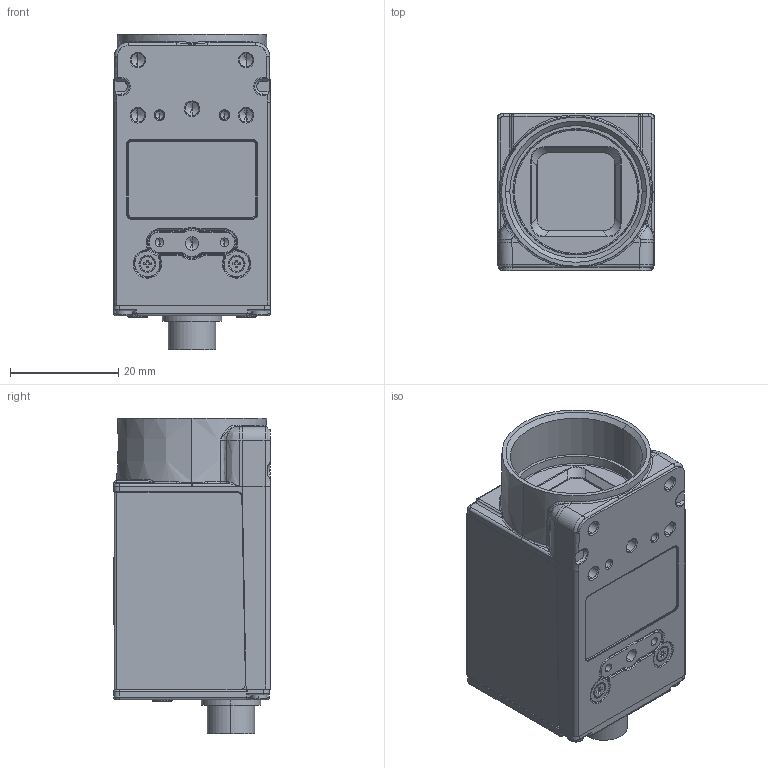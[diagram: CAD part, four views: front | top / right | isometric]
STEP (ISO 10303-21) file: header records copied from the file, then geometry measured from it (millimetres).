
FILE_DESCRIPTION (( 'STEP AP203' ), '1' );
FILE_NAME ('BG_CMOS_3DCadModel_typeB.STEP', '2021-08-30T11:36:26', ( '' ), ( '' ), 'SwSTEP 2.0', 'SolidWorks 2017', '' );
FILE_SCHEMA (( 'CONFIG_CONTROL_DESIGN' ));
Length unit declared in the file: millimetre
Products named in the file (1): BG CMOS版(ﾏｳﾝﾄ変更)
Bounding box: 29 x 29 x 58.4 mm (x, y, z)
Volume: 34987.9 mm3; surface area: 19881.4 mm2
Topology: 13 solids, 13 shells, 1081 faces, 2820 edges, 1780 vertices
Faces by surface type: plane 553, cylinder 258, cone 105, bspline 99, torus 53, sphere 13
Entity records: 34999 total; most frequent: CARTESIAN_POINT 9257, ORIENTED_EDGE 5584, DIRECTION 5066, EDGE_CURVE 2792, VERTEX_POINT 1780, LINE 1776, VECTOR 1776, AXIS2_PLACEMENT_3D 1645
